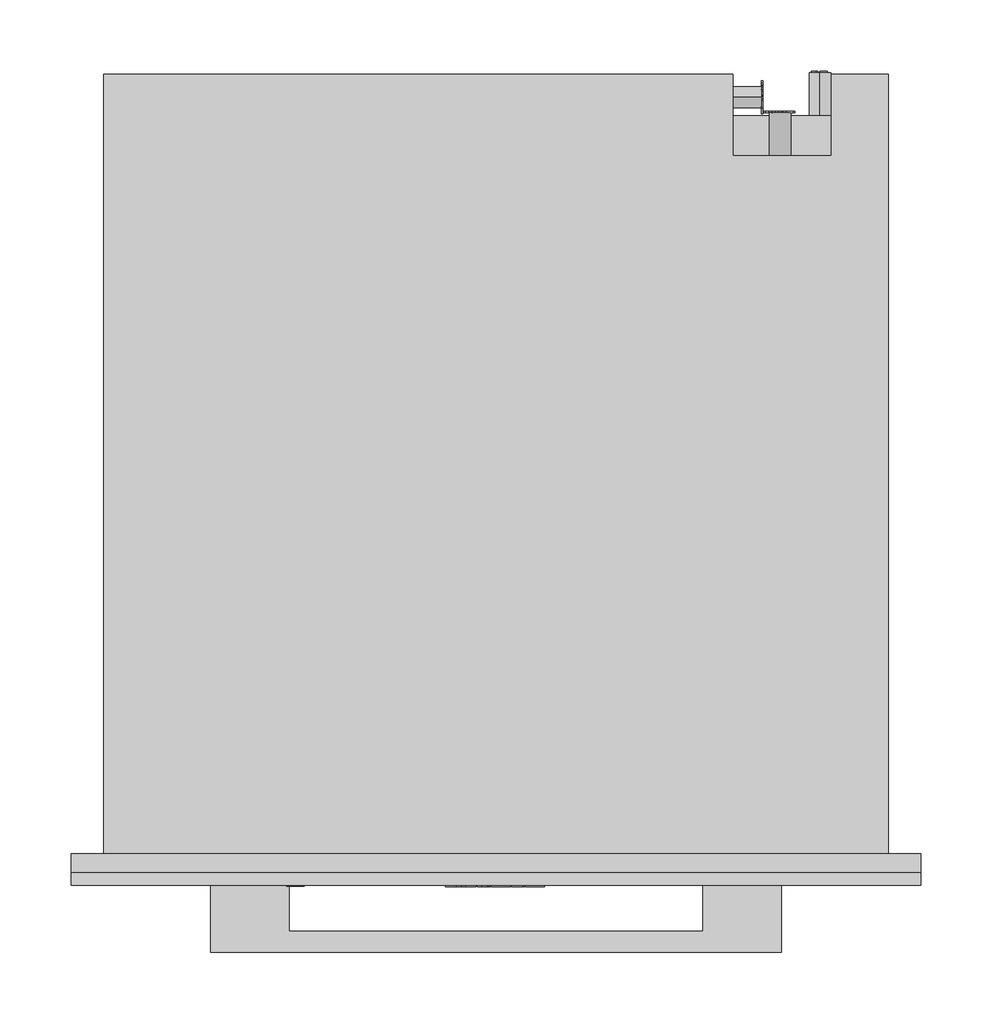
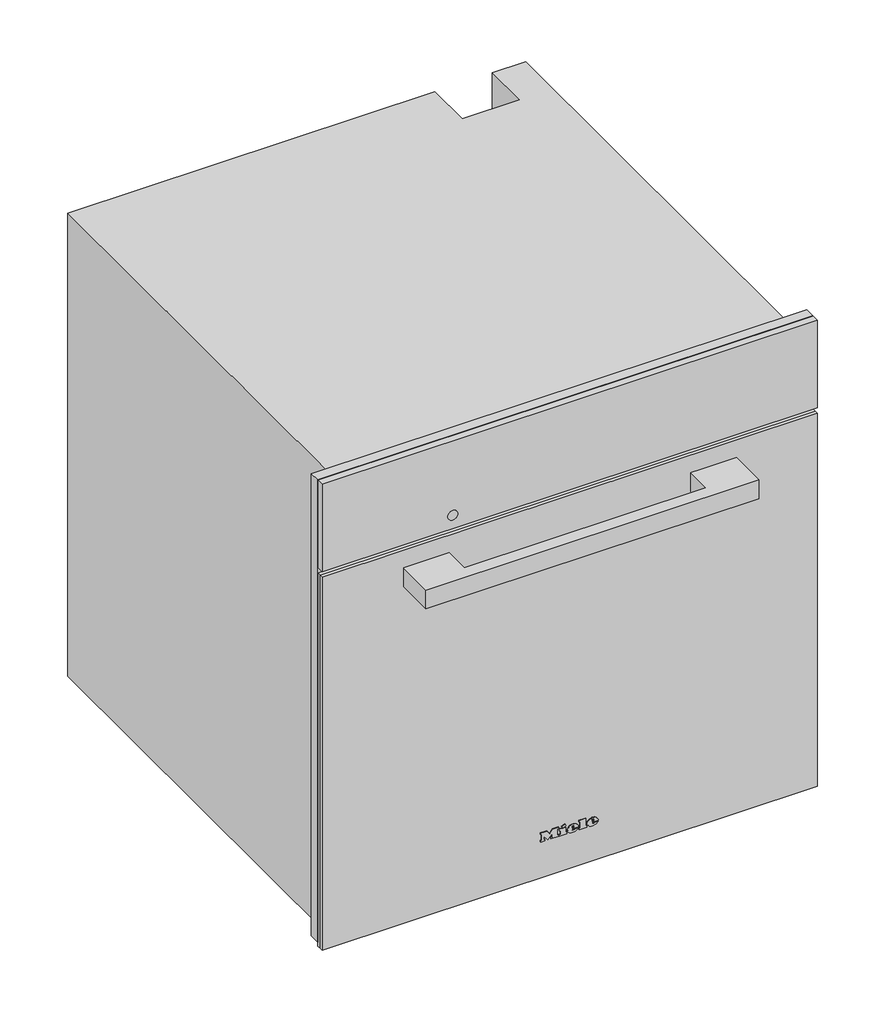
# Not in any storey: 1 proxy.
"""IFC4 building model written with IfcOpenShell, lengths in millimetres."""

from ifc_helpers import new_model, si_unit, origin, place, context, project, spatial, transform, mapped, element, save
from components import specialty_equipment_4556620d

model = new_model("IFC4")

# Units and contexts
model_context = context("Model", 3, world=origin())
ifc_project = project(units=[si_unit("LENGTHUNIT", "METRE", prefix="MILLI")], contexts=[model_context])

# Site, building
site = spatial("IfcSite", under=ifc_project)
building = spatial("IfcBuilding", under=site)

# Proxy
placement = place(None, origin())
specialty_equipment_shape = specialty_equipment_4556620d(model_context)
element("IfcBuildingElementProxy", 1, Name="12108660_BNE_DGC7865HCPro_OBSW : 23786529_BNE_12108660_DGC7865HCPro_OBSW", ObjectType="12108660_BNE_DGC7865HCPro_OBSW : 23786529_BNE_12108660_DGC7865HCPro_OBSW", at=placement, inside=building, context=model_context, shape_type="MappedRepresentation", body=[
    mapped(specialty_equipment_shape, transform((0.0, 0.0, 0.0), x_axis=(1.0, 0.0, 0.0), y_axis=(0.0, 1.0, 0.0), z_axis=(0.0, 0.0, 1.0))),
])

save(model, "model.ifc")
